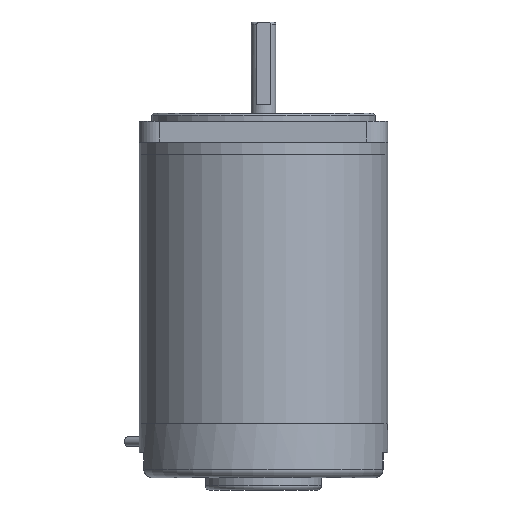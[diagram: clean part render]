
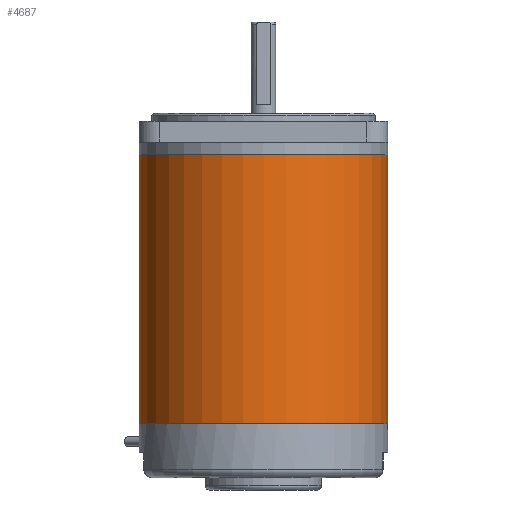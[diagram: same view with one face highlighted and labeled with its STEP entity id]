
A CAD part, front view. The second image highlights one B-rep face of the part: STEP entity #4687.
In plain terms, the highlighted cylindrical face has radius 30 mm (diameter 60 mm), a full revolution.
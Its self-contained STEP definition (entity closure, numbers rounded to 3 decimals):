
#4660=CARTESIAN_POINT('',(0.0,0.0,0.0));
#4661=DIRECTION('',(0.0,0.0,1.0));
#4662=DIRECTION('',(-1.0,0.0,0.0));
#4663=AXIS2_PLACEMENT_3D('',#4660,#4661,#4662);
#4664=CYLINDRICAL_SURFACE('',#4663,30.0);
#4665=CARTESIAN_POINT('',(30.0,0.,65.0));
#4666=VERTEX_POINT('',#4665);
#4667=CARTESIAN_POINT('',(0.0,0.0,65.0));
#4668=DIRECTION('',(0.0,0.0,-1.0));
#4669=DIRECTION('',(-1.0,0.0,0.0));
#4670=AXIS2_PLACEMENT_3D('',#4667,#4668,#4669);
#4671=CIRCLE('',#4670,30.0);
#4672=EDGE_CURVE('',#4666,#4666,#4671,.T.);
#4673=ORIENTED_EDGE('',*,*,#4672,.T.);
#4674=EDGE_LOOP('',(#4673));
#4675=FACE_OUTER_BOUND('',#4674,.T.);
#4676=CARTESIAN_POINT('',(30.0,0.,0.0));
#4677=VERTEX_POINT('',#4676);
#4678=CARTESIAN_POINT('',(0.0,0.0,0.0));
#4679=DIRECTION('',(0.0,0.0,-1.0));
#4680=DIRECTION('',(-1.0,0.0,0.0));
#4681=AXIS2_PLACEMENT_3D('',#4678,#4679,#4680);
#4682=CIRCLE('',#4681,30.0);
#4683=EDGE_CURVE('',#4677,#4677,#4682,.T.);
#4684=ORIENTED_EDGE('',*,*,#4683,.F.);
#4685=EDGE_LOOP('',(#4684));
#4686=FACE_BOUND('',#4685,.T.);
#4687=ADVANCED_FACE('',(#4675,#4686),#4664,.T.);
